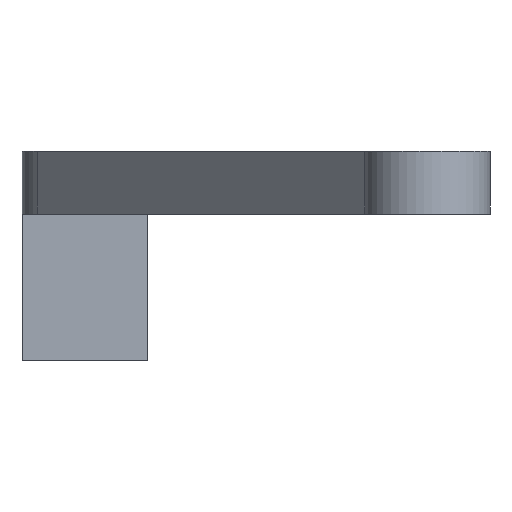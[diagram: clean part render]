
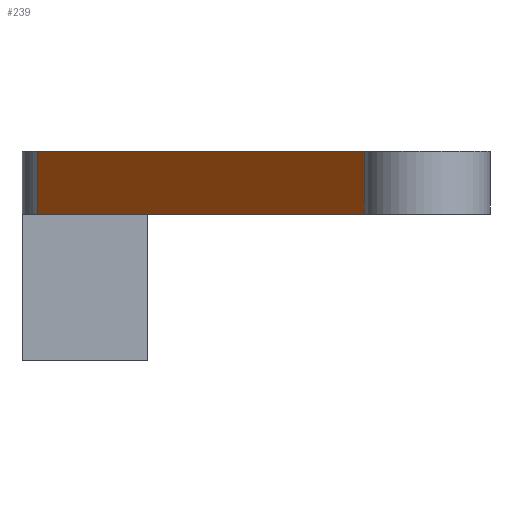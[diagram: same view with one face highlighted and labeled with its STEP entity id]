
A CAD part, front view. The second image highlights one B-rep face of the part: STEP entity #239.
In plain terms, the highlighted free-form (B-spline) face has degree [1, 1] with [2, 2] control points.
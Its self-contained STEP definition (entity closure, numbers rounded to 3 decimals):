
#239 = ADVANCED_FACE('', (#240), #270, .T.);
#240 = FACE_OUTER_BOUND('', #241, .T.);
#241 = EDGE_LOOP('', (#242, #251, #258, #265));
#242 = ORIENTED_EDGE('', *, *, #243, .T.);
#243 = EDGE_CURVE('', #244, #246, #248, .T.);
#244 = VERTEX_POINT('', #245);
#245 = CARTESIAN_POINT('', (101.675, 143.775, -10.));
#246 = VERTEX_POINT('', #247);
#247 = CARTESIAN_POINT('', (101.675, 143.775, -4.));
#248 = B_SPLINE_CURVE_WITH_KNOTS('', 1, (#249, #250), .UNSPECIFIED., .F., .U., (2, 2), (0., 1.), .UNSPECIFIED.);
#249 = CARTESIAN_POINT('', (101.675, 143.775, -10.));
#250 = CARTESIAN_POINT('', (101.675, 143.775, -4.));
#251 = ORIENTED_EDGE('', *, *, #252, .T.);
#252 = EDGE_CURVE('', #246, #253, #255, .T.);
#253 = VERTEX_POINT('', #254);
#254 = CARTESIAN_POINT('', (70.451, 180.088, -4.));
#255 = B_SPLINE_CURVE_WITH_KNOTS('', 1, (#256, #257), .UNSPECIFIED., .F., .U., (2, 2), (2.225, 50.116), .UNSPECIFIED.);
#256 = CARTESIAN_POINT('', (101.675, 143.775, -4.));
#257 = CARTESIAN_POINT('', (70.451, 180.088, -4.));
#258 = ORIENTED_EDGE('', *, *, #259, .F.);
#259 = EDGE_CURVE('', #260, #253, #262, .T.);
#260 = VERTEX_POINT('', #261);
#261 = CARTESIAN_POINT('', (70.451, 180.088, -10.));
#262 = B_SPLINE_CURVE_WITH_KNOTS('', 1, (#263, #264), .UNSPECIFIED., .F., .U., (2, 2), (0., 6.), .UNSPECIFIED.);
#263 = CARTESIAN_POINT('', (70.451, 180.088, -10.));
#264 = CARTESIAN_POINT('', (70.451, 180.088, -4.));
#265 = ORIENTED_EDGE('', *, *, #266, .F.);
#266 = EDGE_CURVE('', #244, #260, #267, .T.);
#267 = B_SPLINE_CURVE_WITH_KNOTS('', 1, (#268, #269), .UNSPECIFIED., .F., .U., (2, 2), (2.225, 50.116), .UNSPECIFIED.);
#268 = CARTESIAN_POINT('', (101.675, 143.775, -10.));
#269 = CARTESIAN_POINT('', (70.451, 180.088, -10.));
#270 = B_SPLINE_SURFACE_WITH_KNOTS('', 1, 1, ((#271, #272), (#273, #274)), .UNSPECIFIED., .F., .F., .U., (2, 2), (2, 2), (0., 6.), (0., 50.116), .UNSPECIFIED.);
#271 = CARTESIAN_POINT('', (103.126, 142.088, -10.));
#272 = CARTESIAN_POINT('', (70.451, 180.088, -10.));
#273 = CARTESIAN_POINT('', (103.126, 142.088, -4.));
#274 = CARTESIAN_POINT('', (70.451, 180.088, -4.));
